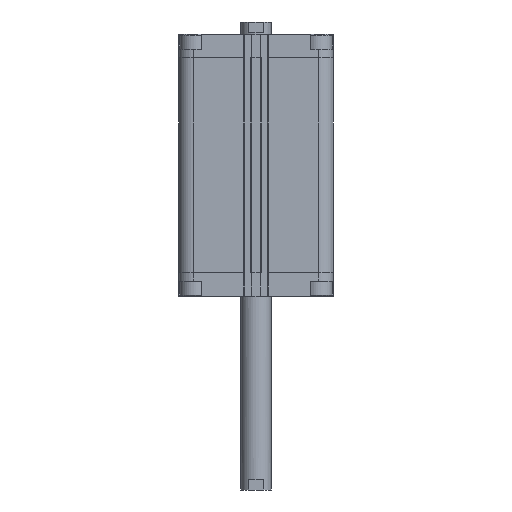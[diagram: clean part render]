
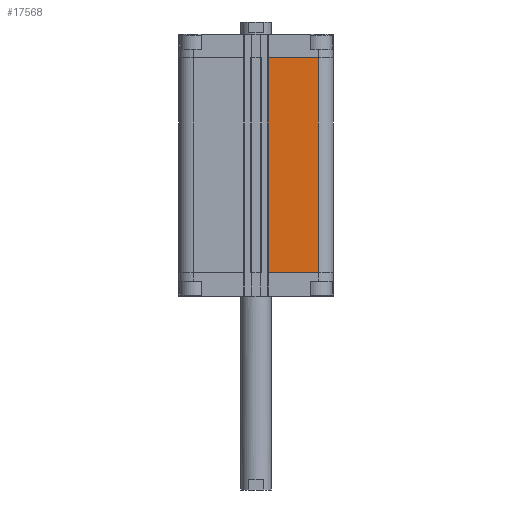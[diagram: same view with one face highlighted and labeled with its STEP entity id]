
A CAD part, front view. The second image highlights one B-rep face of the part: STEP entity #17568.
In plain terms, the highlighted planar face has unit normal (0, -1, 0).
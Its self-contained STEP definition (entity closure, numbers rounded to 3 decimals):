
#53 = DIRECTION ( 'NONE',  ( 1., 0., 0. ) ) ;
#476 = DIRECTION ( 'NONE',  ( 0., 0., 1. ) ) ;
#1160 = EDGE_CURVE ( 'NONE', #17223, #12562, #1995, .T. ) ;
#1995 = LINE ( 'NONE', #5326, #13346 ) ;
#2150 = ORIENTED_EDGE ( 'NONE', *, *, #1160, .F. ) ;
#3063 = VERTEX_POINT ( 'NONE', #13020 ) ;
#3675 = FACE_OUTER_BOUND ( 'NONE', #10936, .T. ) ;
#5069 = DIRECTION ( 'NONE',  ( 0., -1., 0. ) ) ;
#5285 = EDGE_CURVE ( 'NONE', #3063, #17223, #5832, .T. ) ;
#5325 = AXIS2_PLACEMENT_3D ( 'NONE', #18473, #5069, #10113 ) ;
#5326 = CARTESIAN_POINT ( 'NONE',  ( 9.95, -64., -19.5 ) ) ;
#5832 = LINE ( 'NONE', #7021, #7770 ) ;
#6781 = PLANE ( 'NONE',  #5325 ) ;
#7021 = CARTESIAN_POINT ( 'NONE',  ( 9.95, -64., -197. ) ) ;
#7091 = ORIENTED_EDGE ( 'NONE', *, *, #5285, .F. ) ;
#7146 = ORIENTED_EDGE ( 'NONE', *, *, #19529, .T. ) ;
#7238 = DIRECTION ( 'NONE',  ( 0., 0., 1. ) ) ;
#7770 = VECTOR ( 'NONE', #7238, 1000. ) ;
#9213 = CARTESIAN_POINT ( 'NONE',  ( 51.5, -64., -197. ) ) ;
#10113 = DIRECTION ( 'NONE',  ( -1., 0., 0. ) ) ;
#10141 = CARTESIAN_POINT ( 'NONE',  ( 9.95, -64., -19.5 ) ) ;
#10500 = VECTOR ( 'NONE', #19835, 1000. ) ;
#10936 = EDGE_LOOP ( 'NONE', ( #2150, #7091, #7146, #18195 ) ) ;
#11469 = CARTESIAN_POINT ( 'NONE',  ( 9.95, -64., -197. ) ) ;
#12213 = VERTEX_POINT ( 'NONE', #9213 ) ;
#12562 = VERTEX_POINT ( 'NONE', #16120 ) ;
#13020 = CARTESIAN_POINT ( 'NONE',  ( 9.95, -64., -197. ) ) ;
#13300 = LINE ( 'NONE', #11469, #10500 ) ;
#13346 = VECTOR ( 'NONE', #53, 1000. ) ;
#15202 = CARTESIAN_POINT ( 'NONE',  ( 51.5, -64., -197. ) ) ;
#16120 = CARTESIAN_POINT ( 'NONE',  ( 51.5, -64., -19.5 ) ) ;
#16167 = VECTOR ( 'NONE', #476, 1000. ) ;
#16179 = EDGE_CURVE ( 'NONE', #12213, #12562, #16816, .T. ) ;
#16816 = LINE ( 'NONE', #15202, #16167 ) ;
#17223 = VERTEX_POINT ( 'NONE', #10141 ) ;
#17568 = ADVANCED_FACE ( 'NONE', ( #3675 ), #6781, .T. ) ;
#18195 = ORIENTED_EDGE ( 'NONE', *, *, #16179, .T. ) ;
#18473 = CARTESIAN_POINT ( 'NONE',  ( 9.95, -64., -197. ) ) ;
#19529 = EDGE_CURVE ( 'NONE', #3063, #12213, #13300, .T. ) ;
#19835 = DIRECTION ( 'NONE',  ( 1., 0., 0. ) ) ;
